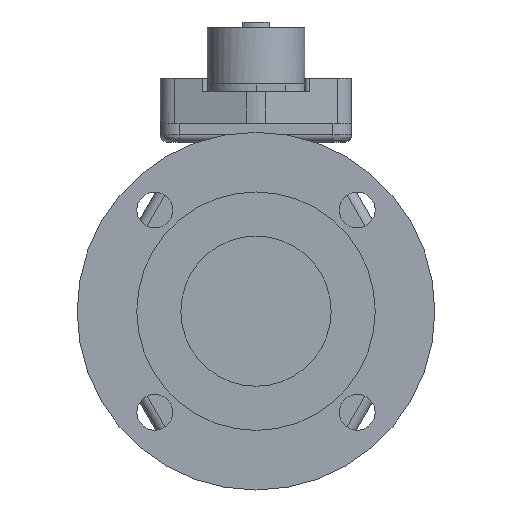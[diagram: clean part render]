
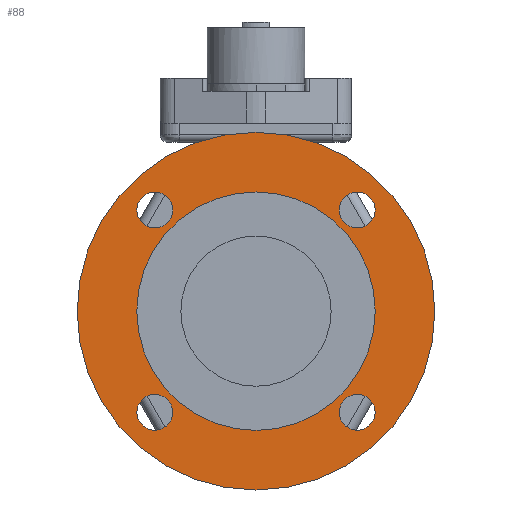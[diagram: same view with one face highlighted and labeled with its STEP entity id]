
A CAD part, left-side view. The second image highlights one B-rep face of the part: STEP entity #88.
In plain terms, the highlighted planar face has unit normal (-1, 0, 0).
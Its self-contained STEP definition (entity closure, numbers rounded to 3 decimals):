
#88=ADVANCED_FACE('',(#462,#463,#464,#465,#466,#467),#461,.T.);
#461=PLANE('',#2875);
#462=FACE_OUTER_BOUND('',#2876,.T.);
#463=FACE_BOUND('',#2877,.T.);
#464=FACE_BOUND('',#2878,.T.);
#465=FACE_BOUND('',#2879,.T.);
#466=FACE_BOUND('',#2880,.T.);
#467=FACE_BOUND('',#2881,.T.);
#2872=CARTESIAN_POINT('',(-100.4,-174.978,-200.5));
#2873=DIRECTION('',(-1.,0.,0.));
#2874=DIRECTION('',(0.,0.,1.));
#2875=AXIS2_PLACEMENT_3D('',#2872,#2873,#2874);
#2876=EDGE_LOOP('',(#4322,#4323));
#2877=EDGE_LOOP('',(#4324,#4325));
#2878=EDGE_LOOP('',(#4326,#4327));
#2879=EDGE_LOOP('',(#4328,#4329));
#2880=EDGE_LOOP('',(#4330,#4331));
#2881=EDGE_LOOP('',(#4332,#4333));
#4322=ORIENTED_EDGE('',*,*,#5550,.T.);
#4323=ORIENTED_EDGE('',*,*,#5551,.T.);
#4324=ORIENTED_EDGE('',*,*,#5552,.F.);
#4325=ORIENTED_EDGE('',*,*,#5553,.F.);
#4326=ORIENTED_EDGE('',*,*,#5554,.F.);
#4327=ORIENTED_EDGE('',*,*,#5555,.F.);
#4328=ORIENTED_EDGE('',*,*,#5556,.F.);
#4329=ORIENTED_EDGE('',*,*,#5557,.F.);
#4330=ORIENTED_EDGE('',*,*,#5558,.F.);
#4331=ORIENTED_EDGE('',*,*,#5559,.F.);
#4332=ORIENTED_EDGE('',*,*,#5560,.F.);
#4333=ORIENTED_EDGE('',*,*,#5561,.F.);
#5550=EDGE_CURVE('',#6853,#6854,#6855,.T.);
#5551=EDGE_CURVE('',#6854,#6853,#6861,.T.);
#5552=EDGE_CURVE('',#6867,#6868,#6869,.T.);
#5553=EDGE_CURVE('',#6868,#6867,#6875,.T.);
#5554=EDGE_CURVE('',#6881,#6882,#6883,.T.);
#5555=EDGE_CURVE('',#6882,#6881,#6889,.T.);
#5556=EDGE_CURVE('',#6895,#6896,#6897,.T.);
#5557=EDGE_CURVE('',#6896,#6895,#6903,.T.);
#5558=EDGE_CURVE('',#6909,#6910,#6911,.T.);
#5559=EDGE_CURVE('',#6910,#6909,#6917,.T.);
#5560=EDGE_CURVE('',#6923,#6924,#6925,.T.);
#5561=EDGE_CURVE('',#6924,#6923,#6931,.T.);
#6853=VERTEX_POINT('',#10683);
#6854=VERTEX_POINT('',#10684);
#6855=CIRCLE('',#10688,95.25);
#6861=CIRCLE('',#10692,95.25);
#6867=VERTEX_POINT('',#10693);
#6868=VERTEX_POINT('',#10694);
#6869=CIRCLE('',#10698,63.5);
#6875=CIRCLE('',#10702,63.5);
#6881=VERTEX_POINT('',#10703);
#6882=VERTEX_POINT('',#10704);
#6883=CIRCLE('',#10708,9.55);
#6889=CIRCLE('',#10712,9.55);
#6895=VERTEX_POINT('',#10713);
#6896=VERTEX_POINT('',#10714);
#6897=CIRCLE('',#10718,9.55);
#6903=CIRCLE('',#10722,9.55);
#6909=VERTEX_POINT('',#10723);
#6910=VERTEX_POINT('',#10724);
#6911=CIRCLE('',#10728,9.55);
#6917=CIRCLE('',#10732,9.55);
#6923=VERTEX_POINT('',#10733);
#6924=VERTEX_POINT('',#10734);
#6925=CIRCLE('',#10738,9.55);
#6931=CIRCLE('',#10742,9.55);
#10683=CARTESIAN_POINT('',(-100.4,0.,95.25));
#10684=CARTESIAN_POINT('',(-100.4,0.,-95.25));
#10685=CARTESIAN_POINT('',(-100.4,0.,0.));
#10686=DIRECTION('',(-1.,0.,0.));
#10687=DIRECTION('',(0.,0.,1.));
#10688=AXIS2_PLACEMENT_3D('',#10685,#10686,#10687);
#10689=CARTESIAN_POINT('',(-100.4,0.,0.));
#10690=DIRECTION('',(-1.,0.,0.));
#10691=DIRECTION('',(0.,0.,1.));
#10692=AXIS2_PLACEMENT_3D('',#10689,#10690,#10691);
#10693=CARTESIAN_POINT('',(-100.4,0.,-63.5));
#10694=CARTESIAN_POINT('',(-100.4,0.,63.5));
#10695=CARTESIAN_POINT('',(-100.4,0.,0.));
#10696=DIRECTION('',(-1.,0.,0.));
#10697=DIRECTION('',(0.,0.,1.));
#10698=AXIS2_PLACEMENT_3D('',#10695,#10696,#10697);
#10699=CARTESIAN_POINT('',(-100.4,0.,0.));
#10700=DIRECTION('',(-1.,0.,0.));
#10701=DIRECTION('',(0.,0.,1.));
#10702=AXIS2_PLACEMENT_3D('',#10699,#10700,#10701);
#10703=CARTESIAN_POINT('',(-100.4,53.882,44.332));
#10704=CARTESIAN_POINT('',(-100.4,53.882,63.432));
#10705=CARTESIAN_POINT('',(-100.4,53.882,53.882));
#10706=DIRECTION('',(-1.,0.,0.));
#10707=DIRECTION('',(0.,0.,1.));
#10708=AXIS2_PLACEMENT_3D('',#10705,#10706,#10707);
#10709=CARTESIAN_POINT('',(-100.4,53.882,53.882));
#10710=DIRECTION('',(-1.,0.,0.));
#10711=DIRECTION('',(0.,0.,1.));
#10712=AXIS2_PLACEMENT_3D('',#10709,#10710,#10711);
#10713=CARTESIAN_POINT('',(-100.4,-53.882,44.332));
#10714=CARTESIAN_POINT('',(-100.4,-53.882,63.432));
#10715=CARTESIAN_POINT('',(-100.4,-53.882,53.882));
#10716=DIRECTION('',(-1.,0.,0.));
#10717=DIRECTION('',(0.,0.,1.));
#10718=AXIS2_PLACEMENT_3D('',#10715,#10716,#10717);
#10719=CARTESIAN_POINT('',(-100.4,-53.882,53.882));
#10720=DIRECTION('',(-1.,0.,0.));
#10721=DIRECTION('',(0.,0.,1.));
#10722=AXIS2_PLACEMENT_3D('',#10719,#10720,#10721);
#10723=CARTESIAN_POINT('',(-100.4,-53.882,-63.432));
#10724=CARTESIAN_POINT('',(-100.4,-53.882,-44.332));
#10725=CARTESIAN_POINT('',(-100.4,-53.882,-53.882));
#10726=DIRECTION('',(-1.,0.,0.));
#10727=DIRECTION('',(0.,0.,1.));
#10728=AXIS2_PLACEMENT_3D('',#10725,#10726,#10727);
#10729=CARTESIAN_POINT('',(-100.4,-53.882,-53.882));
#10730=DIRECTION('',(-1.,0.,0.));
#10731=DIRECTION('',(0.,0.,1.));
#10732=AXIS2_PLACEMENT_3D('',#10729,#10730,#10731);
#10733=CARTESIAN_POINT('',(-100.4,53.882,-63.432));
#10734=CARTESIAN_POINT('',(-100.4,53.882,-44.332));
#10735=CARTESIAN_POINT('',(-100.4,53.882,-53.882));
#10736=DIRECTION('',(-1.,0.,0.));
#10737=DIRECTION('',(0.,0.,1.));
#10738=AXIS2_PLACEMENT_3D('',#10735,#10736,#10737);
#10739=CARTESIAN_POINT('',(-100.4,53.882,-53.882));
#10740=DIRECTION('',(-1.,0.,0.));
#10741=DIRECTION('',(0.,0.,1.));
#10742=AXIS2_PLACEMENT_3D('',#10739,#10740,#10741);
